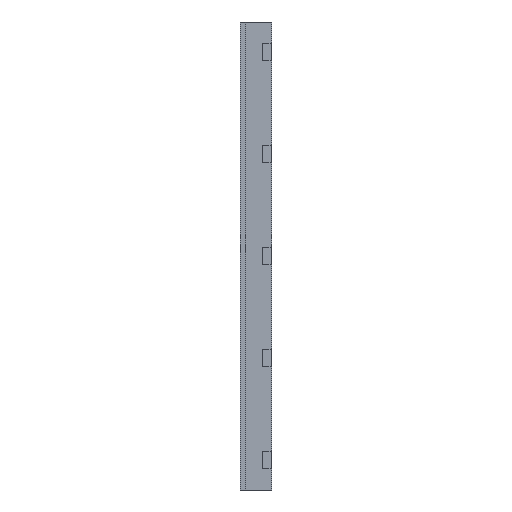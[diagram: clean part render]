
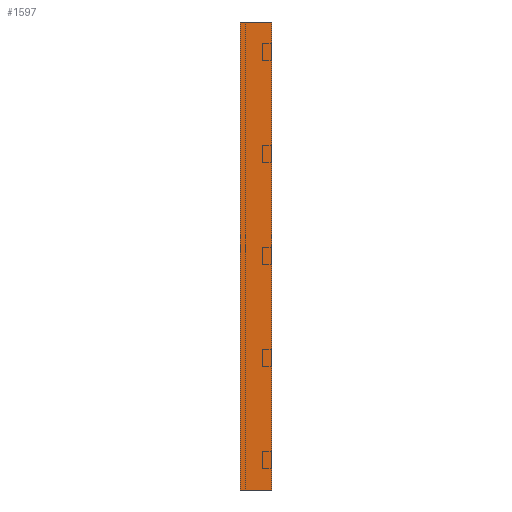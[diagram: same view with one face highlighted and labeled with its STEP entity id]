
A CAD part, left-side view. The second image highlights one B-rep face of the part: STEP entity #1597.
In plain terms, the highlighted planar face has unit normal (-1, 0, 0).
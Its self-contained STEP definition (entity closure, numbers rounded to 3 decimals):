
#1 = CARTESIAN_POINT ( 'NONE',  ( 0., 0., -1100. ) ) ;
#78 = VECTOR ( 'NONE', #848, 1000. ) ;
#130 = CARTESIAN_POINT ( 'NONE',  ( 0., 75., 0. ) ) ;
#170 = CARTESIAN_POINT ( 'NONE',  ( 0., 75., -1100. ) ) ;
#186 = VECTOR ( 'NONE', #392, 1000. ) ;
#356 = AXIS2_PLACEMENT_3D ( 'NONE', #1454, #1445, #1312 ) ;
#392 = DIRECTION ( 'NONE',  ( 0., 0., 1. ) ) ;
#411 = VECTOR ( 'NONE', #900, 1000. ) ;
#412 = CARTESIAN_POINT ( 'NONE',  ( 0., 0., 0. ) ) ;
#498 = CARTESIAN_POINT ( 'NONE',  ( 0., 0., -1100. ) ) ;
#509 = VERTEX_POINT ( 'NONE', #1138 ) ;
#562 = EDGE_LOOP ( 'NONE', ( #1434, #1506, #1213, #787 ) ) ;
#624 = VECTOR ( 'NONE', #854, 1000. ) ;
#674 = LINE ( 'NONE', #1, #186 ) ;
#772 = VERTEX_POINT ( 'NONE', #412 ) ;
#787 = ORIENTED_EDGE ( 'NONE', *, *, #1528, .T. ) ;
#821 = LINE ( 'NONE', #498, #624 ) ;
#848 = DIRECTION ( 'NONE',  ( 0., 0., 1. ) ) ;
#854 = DIRECTION ( 'NONE',  ( 0., -1., 0. ) ) ;
#900 = DIRECTION ( 'NONE',  ( 0., -1., 0. ) ) ;
#918 = LINE ( 'NONE', #1415, #411 ) ;
#969 = LINE ( 'NONE', #1493, #78 ) ;
#1017 = EDGE_CURVE ( 'NONE', #1044, #1568, #969, .T. ) ;
#1044 = VERTEX_POINT ( 'NONE', #170 ) ;
#1057 = PLANE ( 'NONE',  #356 ) ;
#1138 = CARTESIAN_POINT ( 'NONE',  ( 0., 0., -1100. ) ) ;
#1213 = ORIENTED_EDGE ( 'NONE', *, *, #1333, .T. ) ;
#1284 = FACE_OUTER_BOUND ( 'NONE', #562, .T. ) ;
#1312 = DIRECTION ( 'NONE',  ( 0., 0., 1. ) ) ;
#1333 = EDGE_CURVE ( 'NONE', #1044, #509, #821, .T. ) ;
#1415 = CARTESIAN_POINT ( 'NONE',  ( 0., 0., 0. ) ) ;
#1434 = ORIENTED_EDGE ( 'NONE', *, *, #1516, .F. ) ;
#1445 = DIRECTION ( 'NONE',  ( -1., 0., 0. ) ) ;
#1454 = CARTESIAN_POINT ( 'NONE',  ( 0., 0., -1100. ) ) ;
#1493 = CARTESIAN_POINT ( 'NONE',  ( 0., 75., -1100. ) ) ;
#1506 = ORIENTED_EDGE ( 'NONE', *, *, #1017, .F. ) ;
#1516 = EDGE_CURVE ( 'NONE', #1568, #772, #918, .T. ) ;
#1528 = EDGE_CURVE ( 'NONE', #509, #772, #674, .T. ) ;
#1568 = VERTEX_POINT ( 'NONE', #130 ) ;
#1597 = ADVANCED_FACE ( 'NONE', ( #1284 ), #1057, .T. ) ;
